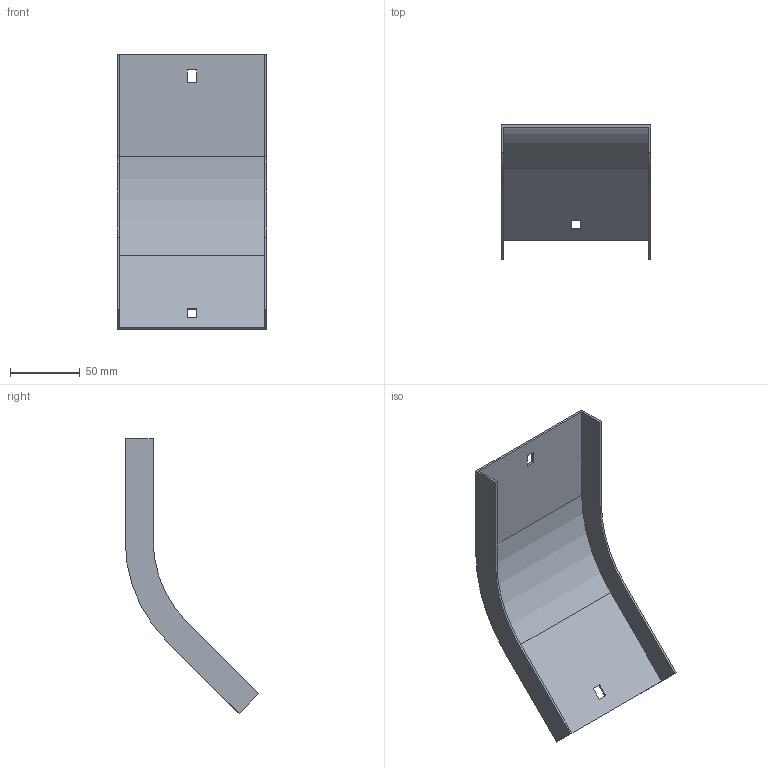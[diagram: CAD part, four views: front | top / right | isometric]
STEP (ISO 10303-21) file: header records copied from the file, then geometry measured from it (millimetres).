
FILE_DESCRIPTION (( 'STEP AP214' ), '1' );
FILE_NAME ('34G1D100.step', '2025-02-21T12:42:12', ( '' ), ( '' ), 'SwSTEP 2.0', 'SolidWorks 2023', '' );
FILE_SCHEMA (( 'AUTOMOTIVE_DESIGN' ));
Length unit declared in the file: millimetre
Products named in the file (1): 34G1D100
Bounding box: 107 x 95.56 x 196.56 mm (x, y, z)
Volume: 48059.6 mm3; surface area: 65236.9 mm2
Topology: 1 solids, 1 shells, 26 faces, 72 edges, 48 vertices
Faces by surface type: plane 22, cylinder 4
Entity records: 855 total; most frequent: CARTESIAN_POINT 147, ORIENTED_EDGE 144, DIRECTION 134, EDGE_CURVE 72, VECTOR 64, LINE 64, VERTEX_POINT 48, AXIS2_PLACEMENT_3D 35
